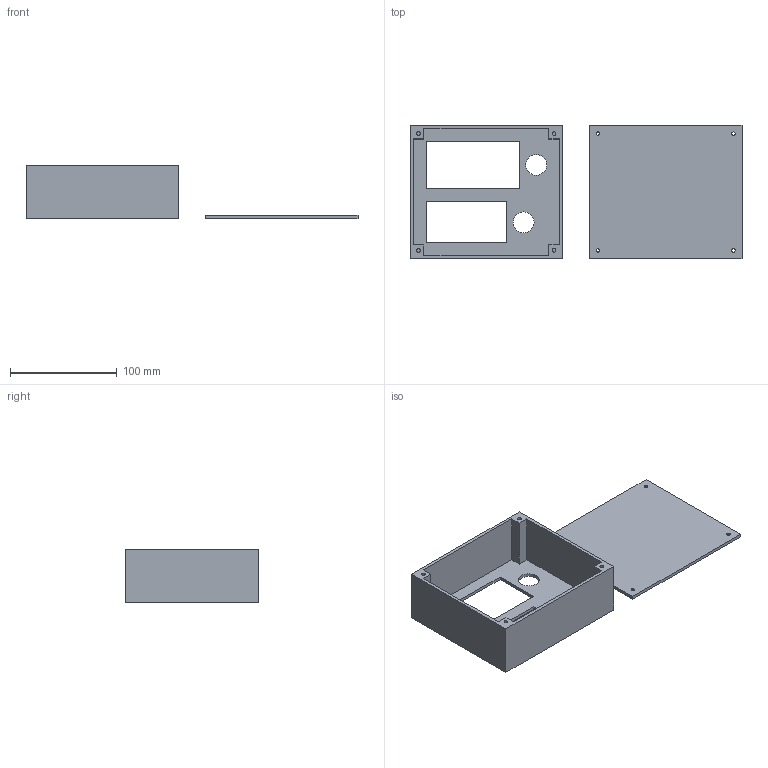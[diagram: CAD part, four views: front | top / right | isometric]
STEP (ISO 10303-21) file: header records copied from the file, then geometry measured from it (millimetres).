
FILE_DESCRIPTION(('FreeCAD Model'),'2;1');
FILE_NAME('Open CASCADE Shape Model','2026-06-08T13:41:50',('Author'),( ''),'Open CASCADE STEP processor 7.8','FreeCAD','Unknown');
FILE_SCHEMA(('AUTOMOTIVE_DESIGN { 1 0 10303 214 1 1 1 1 }'));
Length unit declared in the file: millimetre
Products named in the file (3): PSU_Enclosure3; PSU_Enclosure; Back_Cover
Assembly tree (2 placements, depth 2):
  PSU_Enclosure3
    PSU_Enclosure
    Back_Cover
Bounding box: 311 x 125.35 x 50 mm (x, y, z)
Volume: 177320.2 mm3; surface area: 111866.4 mm2
Topology: 2 solids, 2 shells, 55 faces, 126 edges, 84 vertices
Faces by surface type: plane 41, cylinder 14
Full cylindrical faces by diameter (mm): 3.2 x4, 3.4 x4, 6.5 x4, 19.5 x2
Entity records: 1647 total; most frequent: DIRECTION 270, CARTESIAN_POINT 268, ORIENTED_EDGE 252, EDGE_CURVE 126, LINE 98, VECTOR 98, AXIS2_PLACEMENT_3D 86, VERTEX_POINT 84
